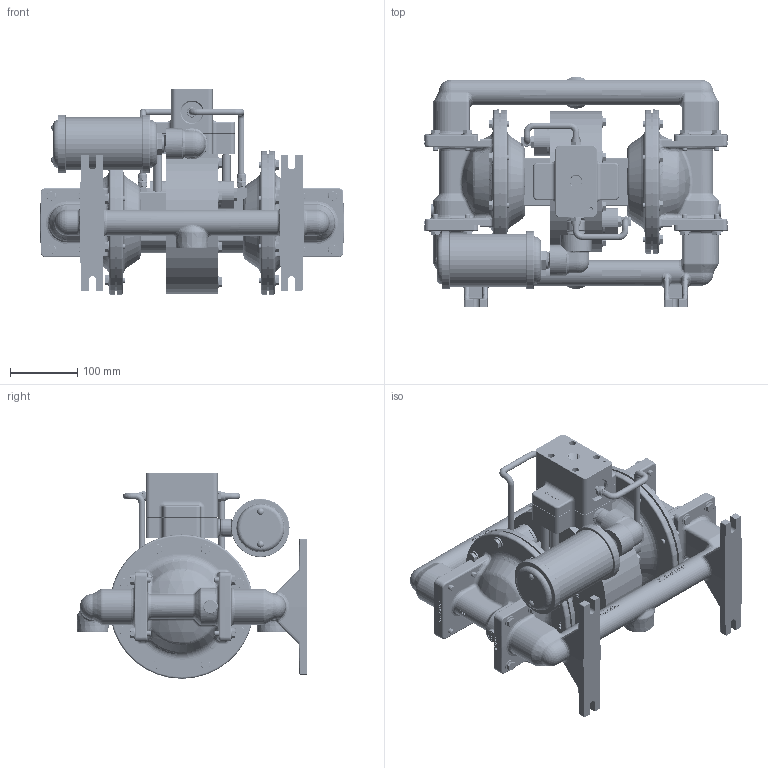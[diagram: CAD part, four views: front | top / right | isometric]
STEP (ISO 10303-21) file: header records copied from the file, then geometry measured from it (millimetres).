
FILE_DESCRIPTION (( 'STEP AP203' ), '1' );
FILE_NAME ('H220_Top_Metal 1.STEP', '2022-07-04T14:56:37', ( '' ), ( '' ), 'SwSTEP 2.0', 'SolidWorks 2019', '' );
FILE_SCHEMA (( 'CONFIG_CONTROL_DESIGN' ));
Length unit declared in the file: inch
Products named in the file (1): H220_Top_Metal 1
Bounding box: 450.6 x 342.29 x 305.24 mm (x, y, z)
Volume: 10695555.4 mm3; surface area: 783398.6 mm2
Topology: 1 solids, 1 shells, 7255 faces, 18773 edges, 11871 vertices
Faces by surface type: plane 4912, cylinder 1093, cone 731, bspline 275, torus 176, sphere 68
Entity records: 299773 total; most frequent: CARTESIAN_POINT 124269, ORIENTED_EDGE 37510, DIRECTION 34727, EDGE_CURVE 18755, LINE 13689, VECTOR 13689, VERTEX_POINT 11871, AXIS2_PLACEMENT_3D 10519
